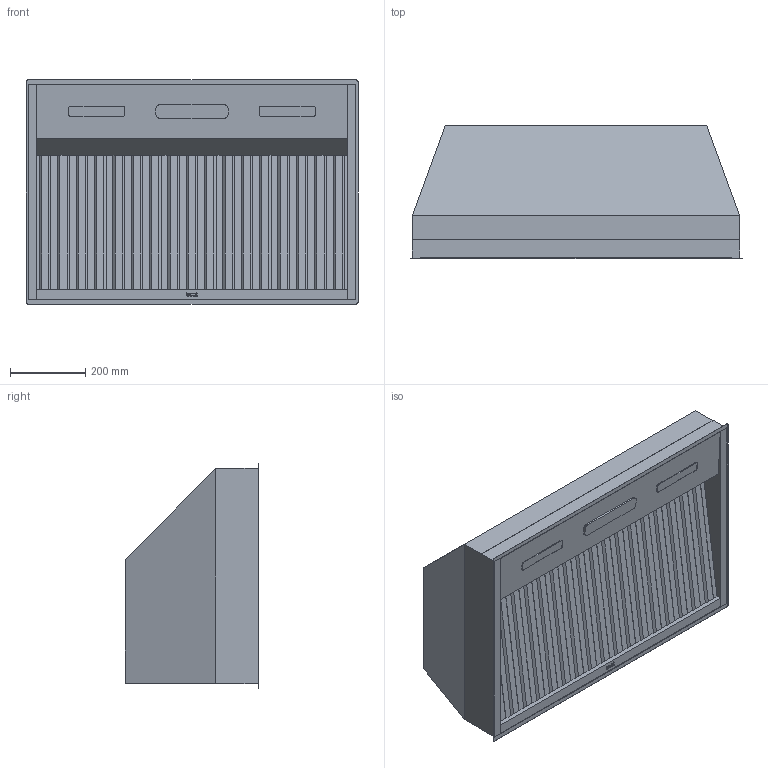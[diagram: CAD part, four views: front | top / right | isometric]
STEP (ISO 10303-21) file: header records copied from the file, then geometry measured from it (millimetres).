
FILE_DESCRIPTION((''),'2;1');
FILE_NAME('HBN536212SS_WEB_CAD_MODEL','2025-04-29T08:26:32',('BoutinM'),(''),'CREO PARAMETRIC BY PTC INC, 2023424','CREO PARAMETRIC BY PTC INC, 2023424','');
FILE_SCHEMA(('CONFIG_CONTROL_DESIGN','SHAPE_APPEARANCE_LAYERS_GROUPS'));
Length unit declared in the file: inch
Products named in the file (1): HBN536212SS_WEB_CAD_MODEL
Bounding box: 884.61 x 356.36 x 596.9 mm (x, y, z)
Volume: 128918165.1 mm3; surface area: 1966631.5 mm2
Topology: 1 solids, 1 shells, 230 faces, 590 edges, 370 vertices
Faces by surface type: plane 201, cylinder 29
Entity records: 9261 total; most frequent: CARTESIAN_POINT 1190, ORIENTED_EDGE 1180, DIRECTION 1108, PRESENTATION_STYLE_ASSIGNMENT 620, STYLED_ITEM 591, CURVE_STYLE 590, EDGE_CURVE 590, VECTOR 532
